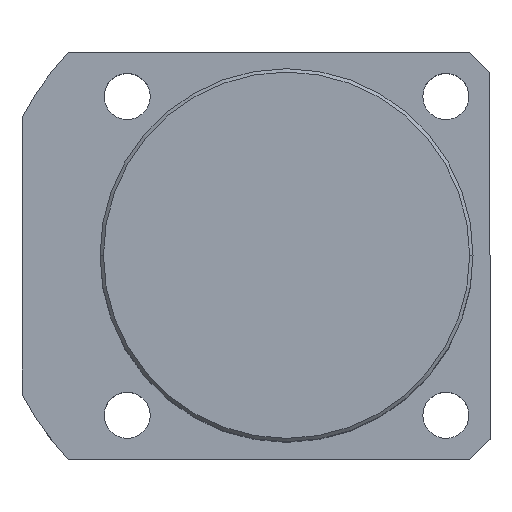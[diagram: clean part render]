
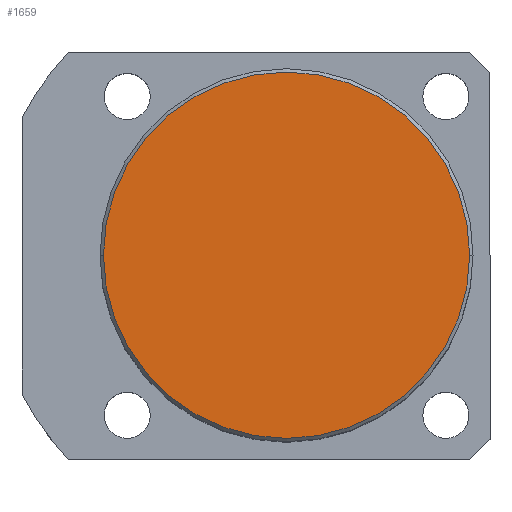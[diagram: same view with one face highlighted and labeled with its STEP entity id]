
A CAD part, top view. The second image highlights one B-rep face of the part: STEP entity #1659.
In plain terms, the highlighted planar face has unit normal (0, 0, 1).
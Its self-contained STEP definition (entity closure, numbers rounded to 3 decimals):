
#66 = DIRECTION ( 'NONE',  ( 0., 0., 1. ) ) ;
#216 = EDGE_CURVE ( 'NONE', #4174, #1680, #1032, .T. ) ;
#326 = AXIS2_PLACEMENT_3D ( 'NONE', #3586, #66, #3996 ) ;
#609 = CARTESIAN_POINT ( 'NONE',  ( 0., 0., 65. ) ) ;
#996 = DIRECTION ( 'NONE',  ( 1., 0., 0. ) ) ;
#1032 = CIRCLE ( 'NONE', #3273, 27. ) ;
#1037 = FACE_OUTER_BOUND ( 'NONE', #1782, .T. ) ;
#1659 = ADVANCED_FACE ( 'NONE', ( #1037 ), #3205, .T. ) ;
#1680 = VERTEX_POINT ( 'NONE', #4801 ) ;
#1701 = AXIS2_PLACEMENT_3D ( 'NONE', #2286, #5073, #2676 ) ;
#1782 = EDGE_LOOP ( 'NONE', ( #3705, #2280 ) ) ;
#2280 = ORIENTED_EDGE ( 'NONE', *, *, #216, .T. ) ;
#2286 = CARTESIAN_POINT ( 'NONE',  ( 0., 0., 65. ) ) ;
#2476 = CIRCLE ( 'NONE', #1701, 27. ) ;
#2676 = DIRECTION ( 'NONE',  ( 1., 0., 0. ) ) ;
#2890 = EDGE_CURVE ( 'NONE', #1680, #4174, #2476, .T. ) ;
#3205 = PLANE ( 'NONE',  #326 ) ;
#3273 = AXIS2_PLACEMENT_3D ( 'NONE', #609, #3330, #996 ) ;
#3330 = DIRECTION ( 'NONE',  ( 0., 0., 1. ) ) ;
#3586 = CARTESIAN_POINT ( 'NONE',  ( 0., 0., 65. ) ) ;
#3705 = ORIENTED_EDGE ( 'NONE', *, *, #2890, .T. ) ;
#3996 = DIRECTION ( 'NONE',  ( 1., 0., 0. ) ) ;
#4174 = VERTEX_POINT ( 'NONE', #4925 ) ;
#4801 = CARTESIAN_POINT ( 'NONE',  ( -27., 0., 65. ) ) ;
#4925 = CARTESIAN_POINT ( 'NONE',  ( 27., 0., 65. ) ) ;
#5073 = DIRECTION ( 'NONE',  ( 0., 0., 1. ) ) ;
